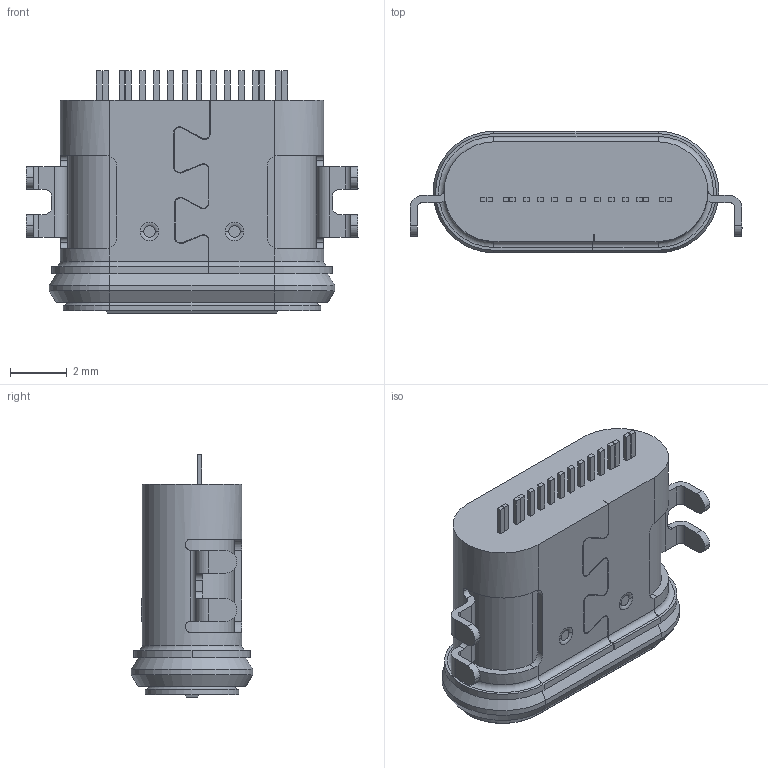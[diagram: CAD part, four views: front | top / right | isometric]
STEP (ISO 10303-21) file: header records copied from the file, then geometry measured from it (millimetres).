
FILE_DESCRIPTION (( 'STEP AP214' ), '1' );
FILE_NAME ('PRT0168_2_9_2.STEP', '2026-05-19T08:32:13', ( '' ), ( '' ), 'SwSTEP 2.0', 'SolidWorks 2024', '' );
FILE_SCHEMA (( 'AUTOMOTIVE_DESIGN' ));
Length unit declared in the file: millimetre
Products named in the file (1): PRT0168_2_9_2
Bounding box: 11.74 x 4.3 x 8.56 mm (x, y, z)
Volume: 161.6 mm3; surface area: 656.5 mm2
Topology: 1 solids, 5 shells, 558 faces, 1515 edges, 994 vertices
Faces by surface type: plane 390, cylinder 111, bspline 25, cone 16, torus 16
Entity records: 19015 total; most frequent: CARTESIAN_POINT 4993, ORIENTED_EDGE 3030, DIRECTION 2711, EDGE_CURVE 1515, VECTOR 1129, LINE 1129, VERTEX_POINT 994, AXIS2_PLACEMENT_3D 791
